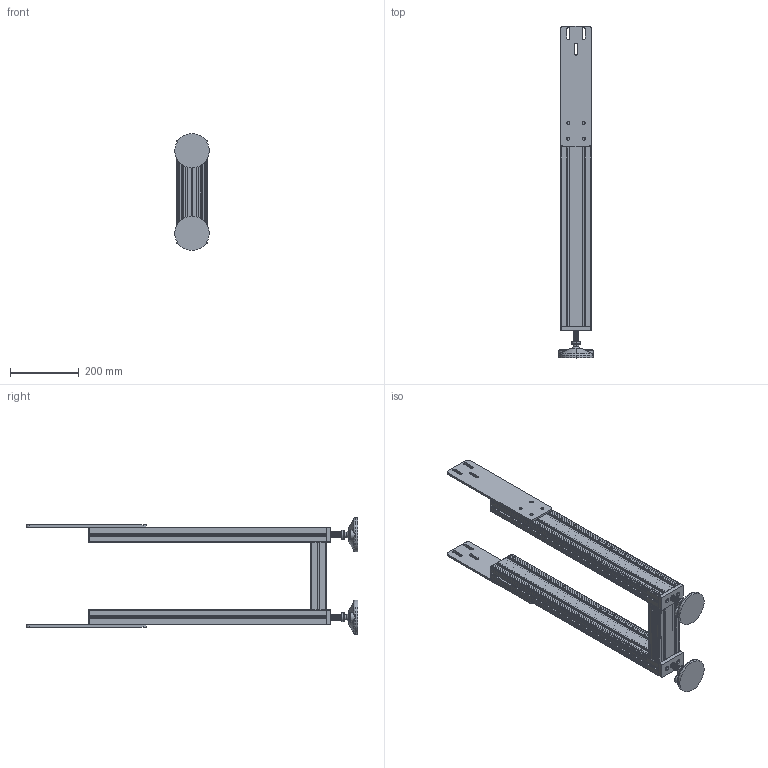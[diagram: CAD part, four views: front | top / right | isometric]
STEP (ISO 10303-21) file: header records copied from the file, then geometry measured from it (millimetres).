
FILE_DESCRIPTION (( 'STEP AP203' ), '1' );
FILE_NAME ('3000.250.KP.1000.STEP', '2020-06-12T07:31:49', ( 'Localadmin' ), ( 'Microsoft' ), 'SwSTEP 2.0', 'SolidWorks 2018', '' );
FILE_SCHEMA (( 'CONFIG_CONTROL_DESIGN' ));
Length unit declared in the file: millimetre
Products named in the file (6): 3000.250.KP.1000; 084.709.002_084.709.002; 3000.250.KP.1000_Default<A macchina>; 084.201.019-2; 084.405.001; 084.402.005
Assembly tree (9 placements, depth 2):
  3000.250.KP.1000
    084.709.002_084.709.002  x2
    3000.250.KP.1000_Default<A macchina>
    084.201.019-2  x2
    084.405.001  x2
    084.402.005  x2
Bounding box: 100 x 965 x 340 mm (x, y, z)
Volume: 2396433.7 mm3; surface area: 1680652 mm2
Topology: 13 solids, 13 shells, 1660 faces, 4534 edges, 2914 vertices
Faces by surface type: cylinder 866, plane 540, torus 130, bspline 88, cone 28, sphere 8
Entity records: 49863 total; most frequent: CARTESIAN_POINT 19701, ORIENTED_EDGE 6510, DIRECTION 5943, EDGE_CURVE 3255, VERTEX_POINT 2113, AXIS2_PLACEMENT_3D 2045, LINE 1853, VECTOR 1853
